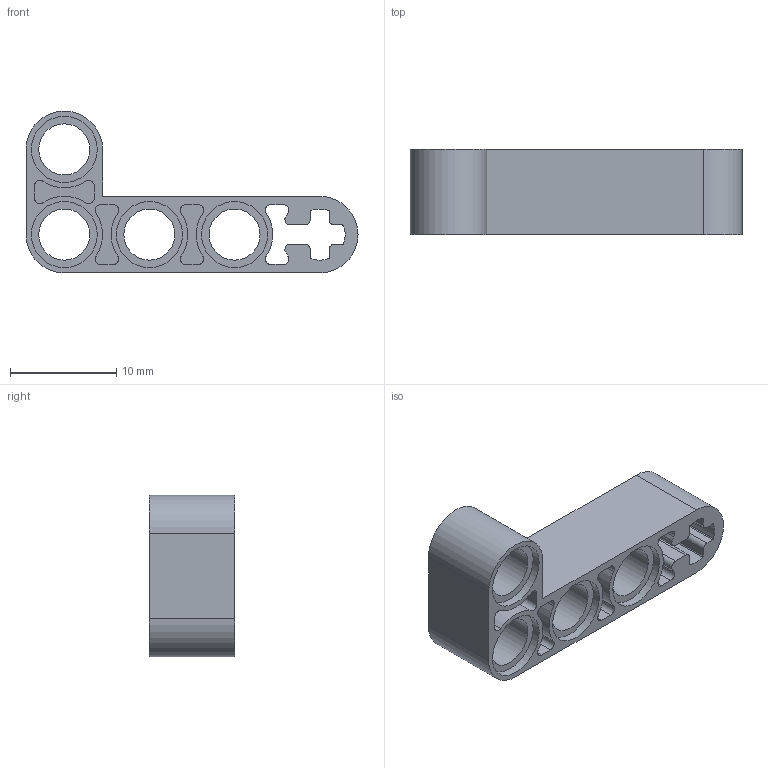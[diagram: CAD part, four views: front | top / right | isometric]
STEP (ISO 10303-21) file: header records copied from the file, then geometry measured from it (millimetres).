
FILE_DESCRIPTION(/* description */ ('Unknown'),/* implementation_level */ '2;1');
FILE_NAME(/* name */ 'Ye_4141628_MBB',/* time_stamp */ '2025-07-22T00:07:31+02:00',/* author */ ('Unknown'),/* organization */ ('Unknown'),/* preprocessor_version */ 'ST-DEVELOPER v19.4',/* originating_system */ 'Solid Edge',/* authorisation */ 'Unknown');
FILE_SCHEMA (('AUTOMOTIVE_DESIGN {1 0 10303 214 3 1 1}'));
Length unit declared in the file: millimetre
Products named in the file (1): Ye_4141628_MBB
Bounding box: 31.2 x 8 x 15.2 mm (x, y, z)
Volume: 1145.8 mm3; surface area: 2061.7 mm2
Topology: 1 solids, 1 shells, 115 faces, 301 edges, 202 vertices
Faces by surface type: cylinder 73, plane 42
Full cylindrical faces by diameter (mm): 4.8 x4, 6.2 x8
Entity records: 3567 total; most frequent: DIRECTION 663, CARTESIAN_POINT 599, ORIENTED_EDGE 570, EDGE_CURVE 285, AXIS2_PLACEMENT_3D 262, VERTEX_POINT 198, EDGE_LOOP 151, FACE_BOUND 151
